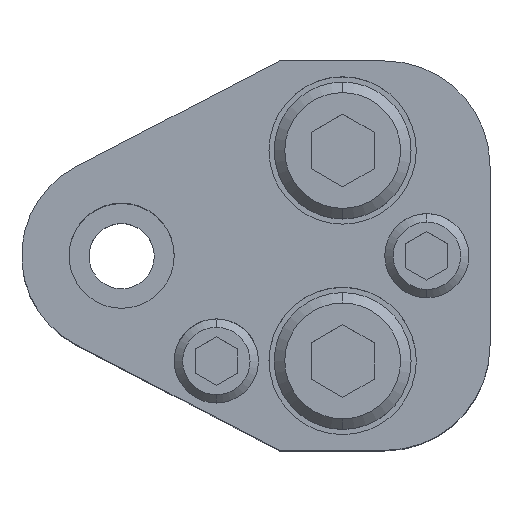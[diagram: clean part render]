
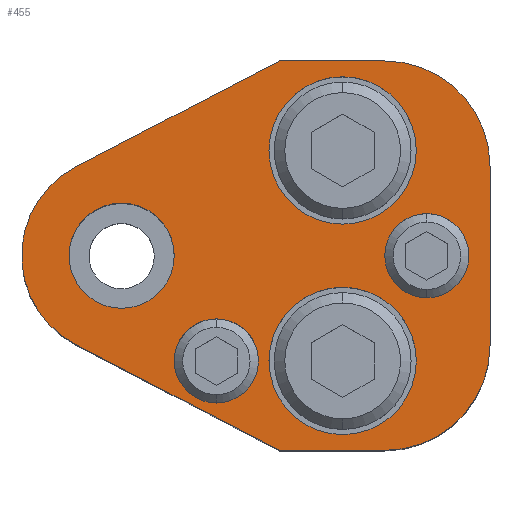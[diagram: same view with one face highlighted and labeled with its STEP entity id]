
A CAD part, top view. The second image highlights one B-rep face of the part: STEP entity #455.
In plain terms, the highlighted planar face has unit normal (0, 0, 1).
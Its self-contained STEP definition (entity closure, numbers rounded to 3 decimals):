
#211=FACE_BOUND('',#817,.T.);
#212=FACE_BOUND('',#818,.T.);
#213=FACE_BOUND('',#819,.T.);
#214=FACE_BOUND('',#820,.T.);
#215=FACE_BOUND('',#821,.T.);
#216=FACE_BOUND('',#822,.T.);
#274=CIRCLE('',#2649,10.);
#276=CIRCLE('',#2653,10.);
#278=CIRCLE('',#2658,9.5);
#287=CIRCLE('',#2672,7.);
#289=CIRCLE('',#2675,7.);
#291=CIRCLE('',#2679,7.);
#293=CIRCLE('',#2682,7.);
#295=CIRCLE('',#2686,4.);
#296=CIRCLE('',#2687,4.);
#297=CIRCLE('',#2688,4.);
#298=CIRCLE('',#2689,4.);
#299=CIRCLE('',#2690,5.);
#300=CIRCLE('',#2691,5.);
#455=ADVANCED_FACE('',(#211,#212,#213,#214,#215,#216),#587,.T.);
#587=PLANE('',#2692);
#817=EDGE_LOOP('',(#1155,#1156,#1157,#1158,#1159,#1160,#1161,#1162));
#818=EDGE_LOOP('',(#1163,#1164));
#819=EDGE_LOOP('',(#1165,#1166));
#820=EDGE_LOOP('',(#1167,#1168));
#821=EDGE_LOOP('',(#1169,#1170));
#822=EDGE_LOOP('',(#1171,#1172));
#1155=ORIENTED_EDGE('',*,*,#1935,.T.);
#1156=ORIENTED_EDGE('',*,*,#1956,.T.);
#1157=ORIENTED_EDGE('',*,*,#1953,.T.);
#1158=ORIENTED_EDGE('',*,*,#1950,.T.);
#1159=ORIENTED_EDGE('',*,*,#1947,.T.);
#1160=ORIENTED_EDGE('',*,*,#1944,.T.);
#1161=ORIENTED_EDGE('',*,*,#1941,.T.);
#1162=ORIENTED_EDGE('',*,*,#1938,.T.);
#1163=ORIENTED_EDGE('',*,*,#1981,.F.);
#1164=ORIENTED_EDGE('',*,*,#1982,.F.);
#1165=ORIENTED_EDGE('',*,*,#1983,.F.);
#1166=ORIENTED_EDGE('',*,*,#1984,.F.);
#1167=ORIENTED_EDGE('',*,*,#1979,.F.);
#1168=ORIENTED_EDGE('',*,*,#1975,.F.);
#1169=ORIENTED_EDGE('',*,*,#1973,.F.);
#1170=ORIENTED_EDGE('',*,*,#1969,.F.);
#1171=ORIENTED_EDGE('',*,*,#1985,.T.);
#1172=ORIENTED_EDGE('',*,*,#1986,.T.);
#1689=VERTEX_POINT('',#3848);
#1690=VERTEX_POINT('',#3850);
#1692=VERTEX_POINT('',#3856);
#1694=VERTEX_POINT('',#3862);
#1696=VERTEX_POINT('',#3868);
#1698=VERTEX_POINT('',#3874);
#1700=VERTEX_POINT('',#3880);
#1702=VERTEX_POINT('',#3886);
#1711=VERTEX_POINT('',#3917);
#1712=VERTEX_POINT('',#3918);
#1715=VERTEX_POINT('',#3930);
#1716=VERTEX_POINT('',#3931);
#1719=VERTEX_POINT('',#3943);
#1720=VERTEX_POINT('',#3944);
#1721=VERTEX_POINT('',#3947);
#1722=VERTEX_POINT('',#3948);
#1723=VERTEX_POINT('',#3951);
#1724=VERTEX_POINT('',#3952);
#1935=EDGE_CURVE('',#1690,#1689,#2265,.T.);
#1938=EDGE_CURVE('',#1692,#1690,#2268,.T.);
#1941=EDGE_CURVE('',#1694,#1692,#274,.T.);
#1944=EDGE_CURVE('',#1696,#1694,#2272,.T.);
#1947=EDGE_CURVE('',#1698,#1696,#276,.T.);
#1950=EDGE_CURVE('',#1700,#1698,#2276,.T.);
#1953=EDGE_CURVE('',#1702,#1700,#2279,.T.);
#1956=EDGE_CURVE('',#1689,#1702,#278,.T.);
#1969=EDGE_CURVE('',#1711,#1712,#287,.T.);
#1973=EDGE_CURVE('',#1712,#1711,#289,.T.);
#1975=EDGE_CURVE('',#1715,#1716,#291,.T.);
#1979=EDGE_CURVE('',#1716,#1715,#293,.T.);
#1981=EDGE_CURVE('',#1719,#1720,#295,.T.);
#1982=EDGE_CURVE('',#1720,#1719,#296,.T.);
#1983=EDGE_CURVE('',#1721,#1722,#297,.T.);
#1984=EDGE_CURVE('',#1722,#1721,#298,.T.);
#1985=EDGE_CURVE('',#1723,#1724,#299,.T.);
#1986=EDGE_CURVE('',#1724,#1723,#300,.T.);
#2265=LINE('',#3849,#2457);
#2268=LINE('',#3855,#2460);
#2272=LINE('',#3867,#2464);
#2276=LINE('',#3879,#2468);
#2279=LINE('',#3885,#2471);
#2457=VECTOR('',#3049,1.);
#2460=VECTOR('',#3054,1.);
#2464=VECTOR('',#3066,1.);
#2468=VECTOR('',#3078,1.);
#2471=VECTOR('',#3083,1.);
#2649=AXIS2_PLACEMENT_3D('',#3861,#3060,#3061);
#2653=AXIS2_PLACEMENT_3D('',#3873,#3072,#3073);
#2658=AXIS2_PLACEMENT_3D('',#3890,#3089,#3090);
#2672=AXIS2_PLACEMENT_3D('',#3916,#3121,#3122);
#2675=AXIS2_PLACEMENT_3D('',#3925,#3129,#3130);
#2679=AXIS2_PLACEMENT_3D('',#3929,#3137,#3138);
#2682=AXIS2_PLACEMENT_3D('',#3938,#3145,#3146);
#2686=AXIS2_PLACEMENT_3D('',#3942,#3153,#3154);
#2687=AXIS2_PLACEMENT_3D('',#3945,#3155,#3156);
#2688=AXIS2_PLACEMENT_3D('',#3946,#3157,#3158);
#2689=AXIS2_PLACEMENT_3D('',#3949,#3159,#3160);
#2690=AXIS2_PLACEMENT_3D('',#3950,#3161,#3162);
#2691=AXIS2_PLACEMENT_3D('',#3953,#3163,#3164);
#2692=AXIS2_PLACEMENT_3D('',#3954,#3165,#3166);
#3049=DIRECTION('',(-0.887,-0.461,0.));
#3054=DIRECTION('',(-1.,0.,0.));
#3060=DIRECTION('',(0.,0.,1.));
#3061=DIRECTION('',(-0.707,-0.707,0.));
#3066=DIRECTION('',(0.,1.,0.));
#3072=DIRECTION('',(0.,0.,1.));
#3073=DIRECTION('',(-0.707,0.707,0.));
#3078=DIRECTION('',(1.,0.,0.));
#3083=DIRECTION('',(0.887,-0.461,0.));
#3089=DIRECTION('',(0.,0.,1.));
#3090=DIRECTION('',(1.,0.,0.));
#3121=DIRECTION('',(0.,0.,1.));
#3122=DIRECTION('',(-1.,0.,0.));
#3129=DIRECTION('',(0.,0.,1.));
#3130=DIRECTION('',(1.,0.,0.));
#3137=DIRECTION('',(0.,0.,1.));
#3138=DIRECTION('',(-1.,0.,0.));
#3145=DIRECTION('',(0.,0.,1.));
#3146=DIRECTION('',(1.,0.,0.));
#3153=DIRECTION('',(0.,0.,1.));
#3154=DIRECTION('',(1.,0.,0.));
#3155=DIRECTION('',(0.,0.,1.));
#3156=DIRECTION('',(-1.,0.,0.));
#3157=DIRECTION('',(0.,0.,1.));
#3158=DIRECTION('',(1.,0.,0.));
#3159=DIRECTION('',(0.,0.,1.));
#3160=DIRECTION('',(-1.,0.,0.));
#3161=DIRECTION('',(0.,0.,-1.));
#3162=DIRECTION('',(-1.,0.,0.));
#3163=DIRECTION('',(0.,0.,-1.));
#3164=DIRECTION('',(1.,0.,0.));
#3165=DIRECTION('',(0.,0.,1.));
#3166=DIRECTION('',(1.,0.,0.));
#3848=CARTESIAN_POINT('',(-4.38,8.43,35.));
#3849=CARTESIAN_POINT('',(15.,18.5,35.));
#3850=CARTESIAN_POINT('',(15.,18.5,35.));
#3855=CARTESIAN_POINT('',(25.,18.5,35.));
#3856=CARTESIAN_POINT('',(25.,18.5,35.));
#3861=CARTESIAN_POINT('',(25.,8.5,35.));
#3862=CARTESIAN_POINT('',(35.,8.5,35.));
#3867=CARTESIAN_POINT('',(35.,8.5,35.));
#3868=CARTESIAN_POINT('',(35.,-8.5,35.));
#3873=CARTESIAN_POINT('',(25.,-8.5,35.));
#3874=CARTESIAN_POINT('',(25.,-18.5,35.));
#3879=CARTESIAN_POINT('',(25.,-18.5,35.));
#3880=CARTESIAN_POINT('',(15.,-18.5,35.));
#3885=CARTESIAN_POINT('',(15.,-18.5,35.));
#3886=CARTESIAN_POINT('',(-4.38,-8.43,35.));
#3890=CARTESIAN_POINT('',(0.,0.,35.));
#3916=CARTESIAN_POINT('',(21.,10.,35.));
#3917=CARTESIAN_POINT('',(21.,3.,35.));
#3918=CARTESIAN_POINT('',(21.,17.,35.));
#3925=CARTESIAN_POINT('',(21.,10.,35.));
#3929=CARTESIAN_POINT('',(21.,-10.,35.));
#3930=CARTESIAN_POINT('',(21.,-17.,35.));
#3931=CARTESIAN_POINT('',(21.,-3.,35.));
#3938=CARTESIAN_POINT('',(21.,-10.,35.));
#3942=CARTESIAN_POINT('',(9.,-10.,35.));
#3943=CARTESIAN_POINT('',(9.,-6.,35.));
#3944=CARTESIAN_POINT('',(9.,-14.,35.));
#3945=CARTESIAN_POINT('',(9.,-10.,35.));
#3946=CARTESIAN_POINT('',(29.,0.,35.));
#3947=CARTESIAN_POINT('',(29.,4.,35.));
#3948=CARTESIAN_POINT('',(29.,-4.,35.));
#3949=CARTESIAN_POINT('',(29.,0.,35.));
#3950=CARTESIAN_POINT('',(0.,0.,35.));
#3951=CARTESIAN_POINT('',(0.,5.,35.));
#3952=CARTESIAN_POINT('',(0.,-5.,35.));
#3953=CARTESIAN_POINT('',(0.,0.,35.));
#3954=CARTESIAN_POINT('',(15.,18.5,35.));
